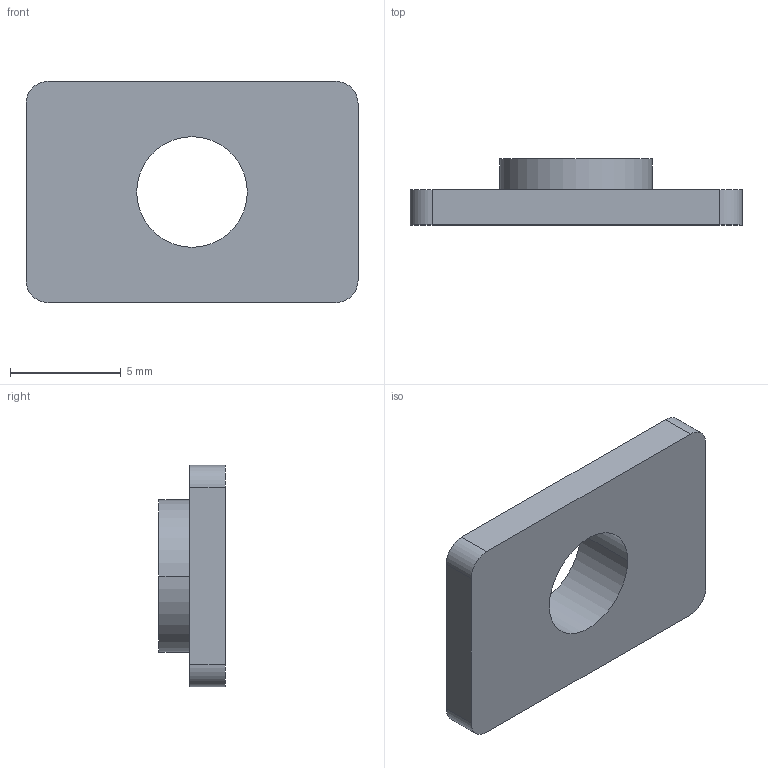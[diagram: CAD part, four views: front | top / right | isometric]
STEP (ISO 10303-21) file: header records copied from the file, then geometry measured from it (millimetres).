
FILE_DESCRIPTION((''),'2;1');
FILE_NAME('25281-02','2014-01-20T',('Barton'),(''),'PRO/ENGINEER BY PARAMETRIC TECHNOLOGY CORPORATION, 2013150','PRO/ENGINEER BY PARAMETRIC TECHNOLOGY CORPORATION, 2013150','');
FILE_SCHEMA(('CONFIG_CONTROL_DESIGN'));
Length unit declared in the file: millimetre
Products named in the file (1): 25281-02
Bounding box: 15 x 3 x 10 mm (x, y, z)
Volume: 232.1 mm3; surface area: 413.7 mm2
Topology: 1 solids, 1 shells, 15 faces, 36 edges, 24 vertices
Faces by surface type: cylinder 8, plane 7
Entity records: 507 total; most frequent: DIRECTION 82, CARTESIAN_POINT 75, ORIENTED_EDGE 72, EDGE_CURVE 36, AXIS2_PLACEMENT_3D 31, VERTEX_POINT 24, VECTOR 20, LINE 20
